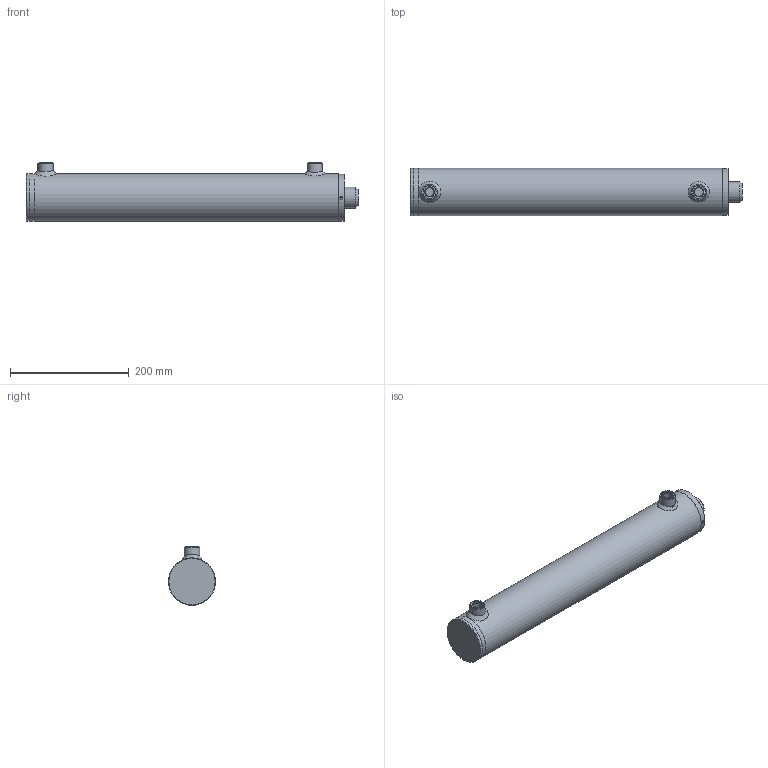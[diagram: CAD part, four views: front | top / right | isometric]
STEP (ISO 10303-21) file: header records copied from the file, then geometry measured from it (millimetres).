
FILE_DESCRIPTION( ( 'Unknown' ), '1' );
FILE_NAME( 'E:/LIBRERIA_3d/CILINDRI/HM0/HM04350400.stp', 'Unknown', ( 'Unknown' ), ( 'Unknown' ), 'PSStep 17.0.49', 'Unknown', ' ' );
FILE_SCHEMA( ( 'AUTOMOTIVE_DESIGN { 1 0 10303 214 1 1 1 1 }' ) );
Length unit declared in the file: millimetre
Products named in the file (18): STL4500400-oa4; Saldatura d'angolo 1-oa2; CBS0600000; FTM4500400-oa3; CT00070020; CG08007035; Assem1; Saldatura con preparazione 1-oa0; Saldatura d'angolo 1-oa1; CF00070080; APG0600000; CDA0002015; SBL3530400
Assembly tree (15 placements, depth 3):
  Saldatura d'angolo 1-oa2
  Saldatura d'angolo 1-oa2
  Assem1
    Saldatura con preparazione 1-oa0
    Saldatura con preparazione 1-oa0
    CF00070080
    CBS0600000
    APG0600000  x2
    CDA0002015
    SBL3530400
    CG08007035
      CG08007035
    CT00070020
      CT00070020
    STL4500400-oa4
      CBS0600000
      FTM4500400-oa3
  Saldatura d'angolo 1-oa1
  Saldatura d'angolo 1-oa1
Bounding box: 560 x 80 x 99 mm (x, y, z)
Volume: 1441062.7 mm3; surface area: 396640.1 mm2
Topology: 16 solids, 16 shells, 194 faces, 394 edges, 245 vertices
Faces by surface type: plane 58, cylinder 55, torus 37, cone 32, bspline 12
Full cylindrical faces by diameter (mm): 4.25 x1, 5 x2, 6 x2, 7 x2, 14.95 x2, 16 x2, 16.6 x2, 19.4 x1, 20 x5, 22 x2, 24.5 x1, 26 x2, 30 x1, 35 x4, 37 x1, 38 x1, 43.6 x1, 45 x1, 50 x1, 64.18 x2, 65 x1, 68.34 x2, 69.9 x1, 70 x1, 70.3 x1, 70.5 x1, 70.6 x1, 71 x1, 72 x3, 72.5 x1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
Entity records: 8908 total; most frequent: CARTESIAN_POINT 4297, DIRECTION 706, ORIENTED_EDGE 394, AXIS2_PLACEMENT_3D 341, EDGE_LOOP 340, FACE_OUTER_BOUND 274, EDGE_CURVE 197, VERTEX_POINT 188
